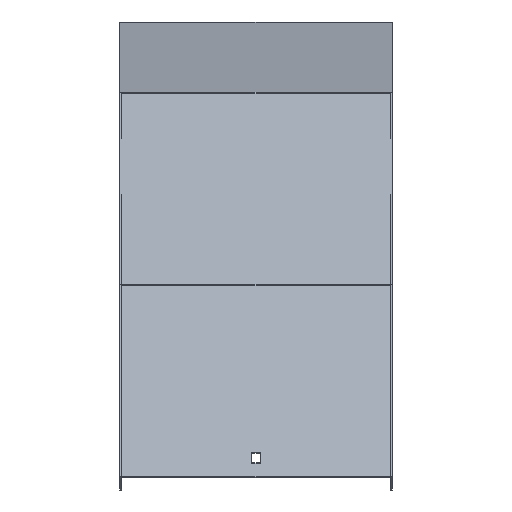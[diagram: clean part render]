
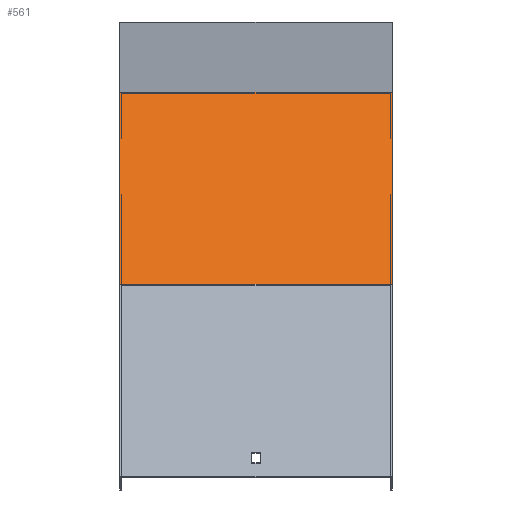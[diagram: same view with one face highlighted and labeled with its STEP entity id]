
A CAD part, top view. The second image highlights one B-rep face of the part: STEP entity #561.
In plain terms, the highlighted planar face has unit normal (0, 0.707, 0.707).
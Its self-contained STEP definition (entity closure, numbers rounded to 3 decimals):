
#4 = VERTEX_POINT ( 'NONE', #334 ) ;
#42 = EDGE_CURVE ( 'NONE', #240, #416, #734, .T. ) ;
#63 = ORIENTED_EDGE ( 'NONE', *, *, #42, .T. ) ;
#72 = LINE ( 'NONE', #894, #151 ) ;
#81 = CARTESIAN_POINT ( 'NONE',  ( 101.5, -36.328, 365.498 ) ) ;
#151 = VECTOR ( 'NONE', #603, 1000. ) ;
#171 = DIRECTION ( 'NONE',  ( 0., -0.707, 0.707 ) ) ;
#188 = ORIENTED_EDGE ( 'NONE', *, *, #331, .F. ) ;
#197 = CARTESIAN_POINT ( 'NONE',  ( -101.5, -176.075, 505.245 ) ) ;
#212 = DIRECTION ( 'NONE',  ( 0., -0.707, 0.707 ) ) ;
#234 = PLANE ( 'NONE',  #721 ) ;
#240 = VERTEX_POINT ( 'NONE', #613 ) ;
#252 = DIRECTION ( 'NONE',  ( -1., 0., 0. ) ) ;
#286 = VECTOR ( 'NONE', #252, 1000. ) ;
#306 = CARTESIAN_POINT ( 'NONE',  ( 101.5, -36.328, 365.498 ) ) ;
#319 = LINE ( 'NONE', #81, #826 ) ;
#331 = EDGE_CURVE ( 'NONE', #773, #4, #319, .T. ) ;
#334 = CARTESIAN_POINT ( 'NONE',  ( 101.5, -176.075, 505.245 ) ) ;
#346 = EDGE_CURVE ( 'NONE', #773, #240, #780, .T. ) ;
#382 = EDGE_LOOP ( 'NONE', ( #63, #939, #188, #732 ) ) ;
#416 = VERTEX_POINT ( 'NONE', #197 ) ;
#522 = FACE_OUTER_BOUND ( 'NONE', #382, .T. ) ;
#561 = ADVANCED_FACE ( 'NONE', ( #522 ), #234, .F. ) ;
#578 = EDGE_CURVE ( 'NONE', #4, #416, #72, .T. ) ;
#603 = DIRECTION ( 'NONE',  ( -1., 0., 0. ) ) ;
#613 = CARTESIAN_POINT ( 'NONE',  ( -101.5, -32.538, 361.708 ) ) ;
#698 = CARTESIAN_POINT ( 'NONE',  ( 101.5, -32.538, 361.708 ) ) ;
#721 = AXIS2_PLACEMENT_3D ( 'NONE', #306, #909, #976 ) ;
#732 = ORIENTED_EDGE ( 'NONE', *, *, #346, .T. ) ;
#734 = LINE ( 'NONE', #946, #929 ) ;
#770 = CARTESIAN_POINT ( 'NONE',  ( 101.5, -32.538, 361.708 ) ) ;
#773 = VERTEX_POINT ( 'NONE', #698 ) ;
#780 = LINE ( 'NONE', #770, #286 ) ;
#826 = VECTOR ( 'NONE', #171, 1000. ) ;
#894 = CARTESIAN_POINT ( 'NONE',  ( 101.5, -176.075, 505.245 ) ) ;
#909 = DIRECTION ( 'NONE',  ( 0., -0.707, -0.707 ) ) ;
#929 = VECTOR ( 'NONE', #212, 1000. ) ;
#939 = ORIENTED_EDGE ( 'NONE', *, *, #578, .F. ) ;
#946 = CARTESIAN_POINT ( 'NONE',  ( -101.5, -36.328, 365.498 ) ) ;
#976 = DIRECTION ( 'NONE',  ( 0., 0.707, -0.707 ) ) ;
